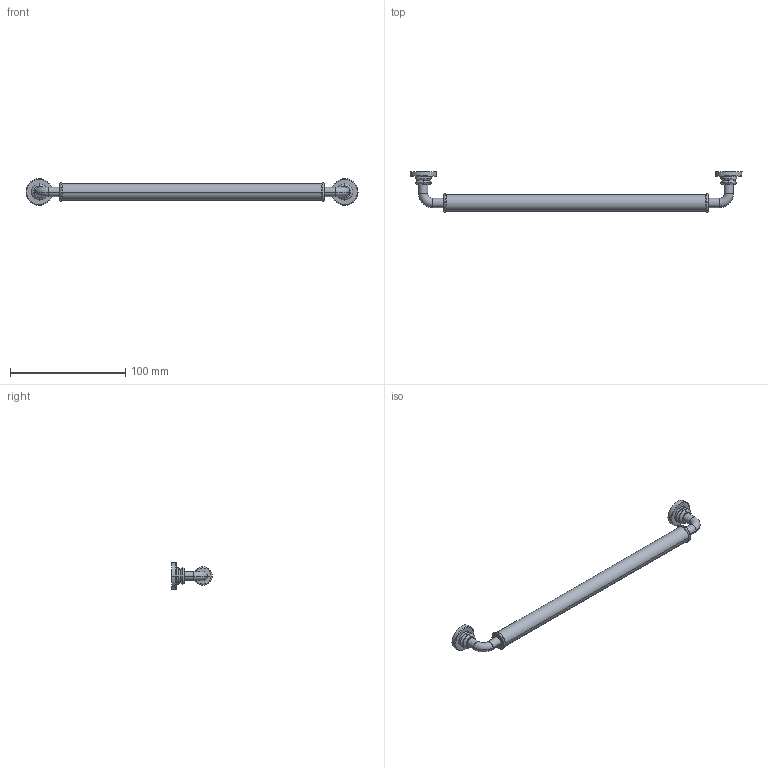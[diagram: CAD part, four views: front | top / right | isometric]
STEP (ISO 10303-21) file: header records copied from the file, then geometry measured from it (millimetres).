
FILE_DESCRIPTION( ( '' ), '1' );
FILE_NAME( 'D:/1.AUTOCAD EXPORT/Group 10/sheet_10_1/9132273.stp', '2013-10-21T06:36:24', ( '' ), ( '' ), ' ', ' ', ' ' );
FILE_SCHEMA( ( 'automotive_design' ) );
Length unit declared in the file: millimetre
Products named in the file (1): 1
Bounding box: 288 x 35 x 23 mm (x, y, z)
Volume: 43271.8 mm3; surface area: 14923.6 mm2
Topology: 1 solids, 1 shells, 95 faces, 230 edges, 141 vertices
Faces by surface type: torus 40, cone 24, cylinder 22, plane 9
Entity records: 5557 total; most frequent: DIRECTION 598, CARTESIAN_POINT 545, STYLED_ITEM 467, PRESENTATION_STYLE_ASSIGNMENT 467, COLOUR_RGB 467, ORIENTED_EDGE 460, AXIS2_PLACEMENT_3D 276, EDGE_CURVE 230
